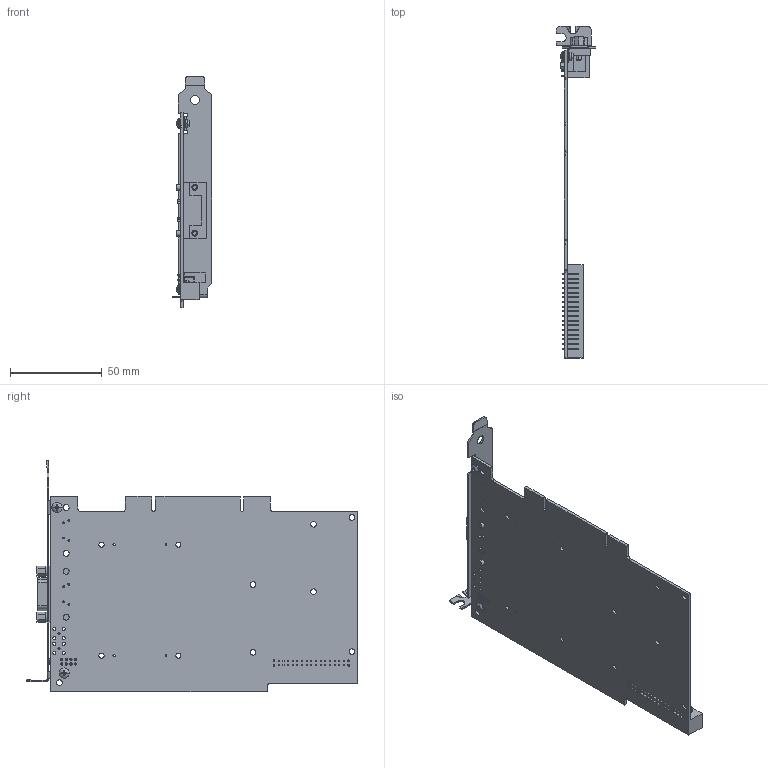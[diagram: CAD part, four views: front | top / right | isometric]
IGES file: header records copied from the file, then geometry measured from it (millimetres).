
Start section:  PTC IGES file: cu_pci-8512_1.igs
Global section: file name: cu_pci-8512_1.igs; native system: Pro/ENGINEER by Parametric Technology Corporation; preprocessor: 2006080; author: dcrowder; organization: Unknown; date: 090219.132714; units: inch
Bounding box: 21.59 x 180.92 x 126.37 mm (x, y, z)
Surface area: 45397 mm2 (no closed solid volume)
Topology: 0 solids, 0 shells, 1232 faces, 6490 edges, 6450 vertices
Faces by surface type: bspline 872, revolution 360
